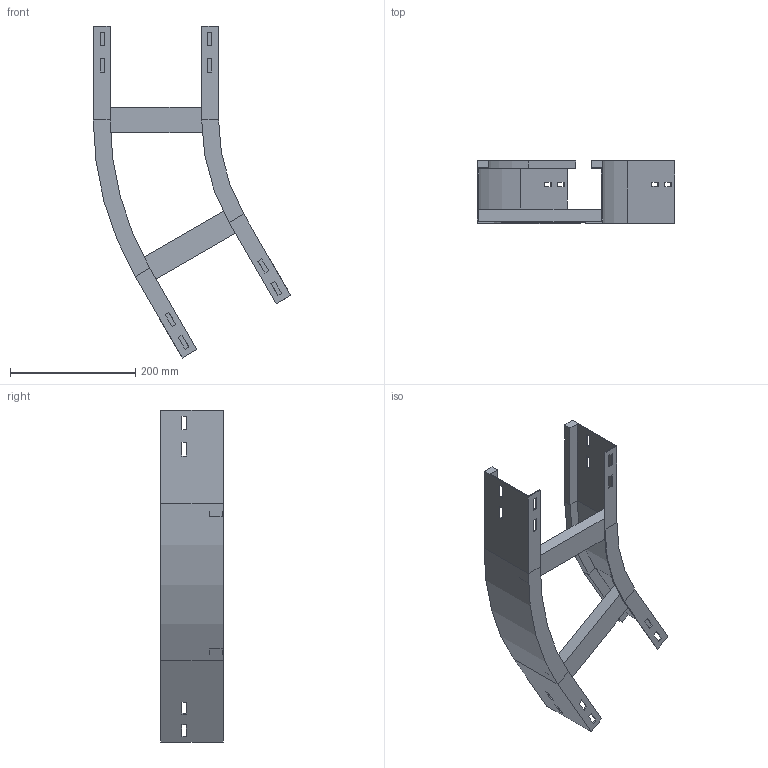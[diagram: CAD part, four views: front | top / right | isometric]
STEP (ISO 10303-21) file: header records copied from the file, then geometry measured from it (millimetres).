
FILE_DESCRIPTION (( 'STEP AP214' ), '1' );
FILE_NAME ('A2_12B3D200.step', '2025-02-21T15:07:05', ( '' ), ( '' ), 'SwSTEP 2.0', 'SolidWorks 2023', '' );
FILE_SCHEMA (( 'AUTOMOTIVE_DESIGN' ));
Length unit declared in the file: millimetre
Products named in the file (4): A2_12B3D200; A2_LONGH.INTERNO 30°_H100_R300; A2_LONGH.ESTERNO 30°_H100_R300+200; TRAVERSINO_200
Assembly tree (4 placements, depth 2):
  A2_12B3D200
    A2_LONGH.INTERNO 30°_H100_R300
    A2_LONGH.ESTERNO 30°_H100_R300+200
    TRAVERSINO_200  x2
Bounding box: 315.19 x 100 x 529.9 mm (x, y, z)
Volume: 762936.5 mm3; surface area: 340767.4 mm2
Topology: 4 solids, 4 shells, 128 faces, 328 edges, 208 vertices
Faces by surface type: plane 120, cylinder 8
Entity records: 3813 total; most frequent: CARTESIAN_POINT 645, ORIENTED_EDGE 632, DIRECTION 590, EDGE_CURVE 316, LINE 300, VECTOR 300, VERTEX_POINT 200, EDGE_LOOP 154
